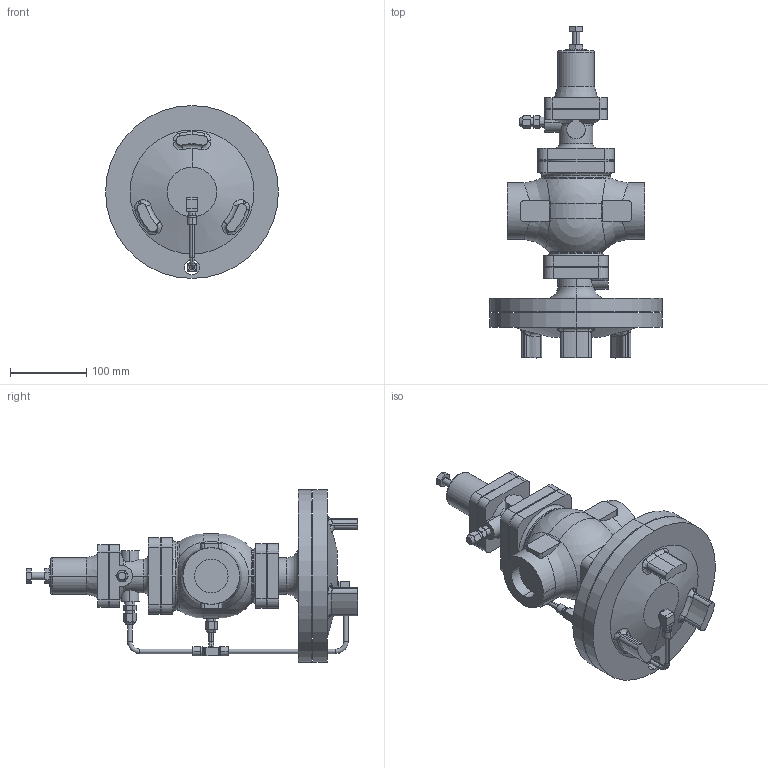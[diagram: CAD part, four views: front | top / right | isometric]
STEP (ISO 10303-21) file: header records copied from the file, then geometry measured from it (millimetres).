
FILE_DESCRIPTION (( 'STEP AP203' ), '1' );
FILE_NAME ('GPR-2000 JIS Rc 40A.STEP', '2025-12-05T02:28:31', ( '' ), ( '' ), 'SwSTEP 2.0', 'SolidWorks 2024', '' );
FILE_SCHEMA (( 'CONFIG_CONTROL_DESIGN' ));
Length unit declared in the file: millimetre
Products named in the file (8): Elbow; GPR-2000 JIS Rc 40A; GP-2000 Pipe A 32-40A; GPR-2000 Body Assy EN 32A; Pipe C 32-40A; Joint; Tee; Pipe B 32-40A
Assembly tree (9 placements, depth 2):
  GPR-2000 JIS Rc 40A
    GPR-2000 Body Assy EN 32A
    Tee
    Pipe B 32-40A
    Joint  x3
    GP-2000 Pipe A 32-40A
    Pipe C 32-40A
    Elbow
Bounding box: 226 x 434 x 226 mm (x, y, z)
Volume: 3880113.8 mm3; surface area: 343781.3 mm2
Topology: 9 solids, 9 shells, 447 faces, 1118 edges, 729 vertices
Faces by surface type: plane 193, cylinder 163, torus 32, bspline 28, cone 27, sphere 4
Entity records: 16478 total; most frequent: CARTESIAN_POINT 6161, DIRECTION 1998, ORIENTED_EDGE 1952, EDGE_CURVE 976, AXIS2_PLACEMENT_3D 778, VERTEX_POINT 629, EDGE_LOOP 447, LINE 442
